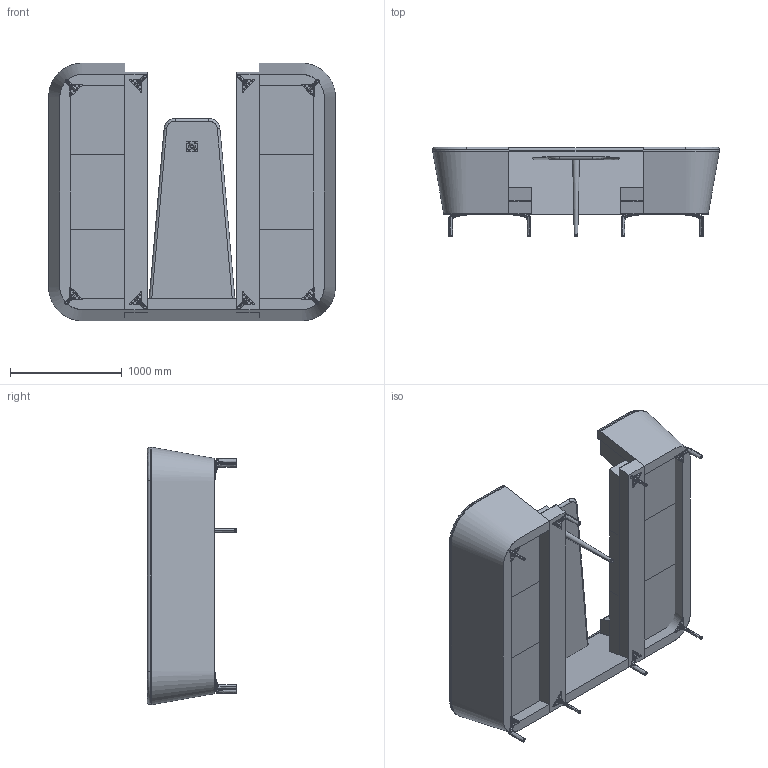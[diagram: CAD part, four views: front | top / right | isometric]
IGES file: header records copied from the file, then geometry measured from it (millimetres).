
Start section: SolidWorks IGES file using analytic representation for surfaces
Global section: file name: P:\3D CAD BLOCKS\ENTENTE\ENT6L - ENTENTE 6 SEAT BOOTH\ENT6L - ENTENTE 6 SEAT BOOTH -.IGS; native system: SolidWorks 2012; preprocessor: SolidWorks 2012; author: adam; date: 140710.121150; units: millimetre
Bounding box: 2560 x 797.5 x 2300 mm (x, y, z)
Surface area: 29115355.5 mm2 (no closed solid volume)
Topology: 0 solids, 0 shells, 1253 faces, 16218 edges, 16210 vertices
Faces by surface type: bspline 714, revolution 539
